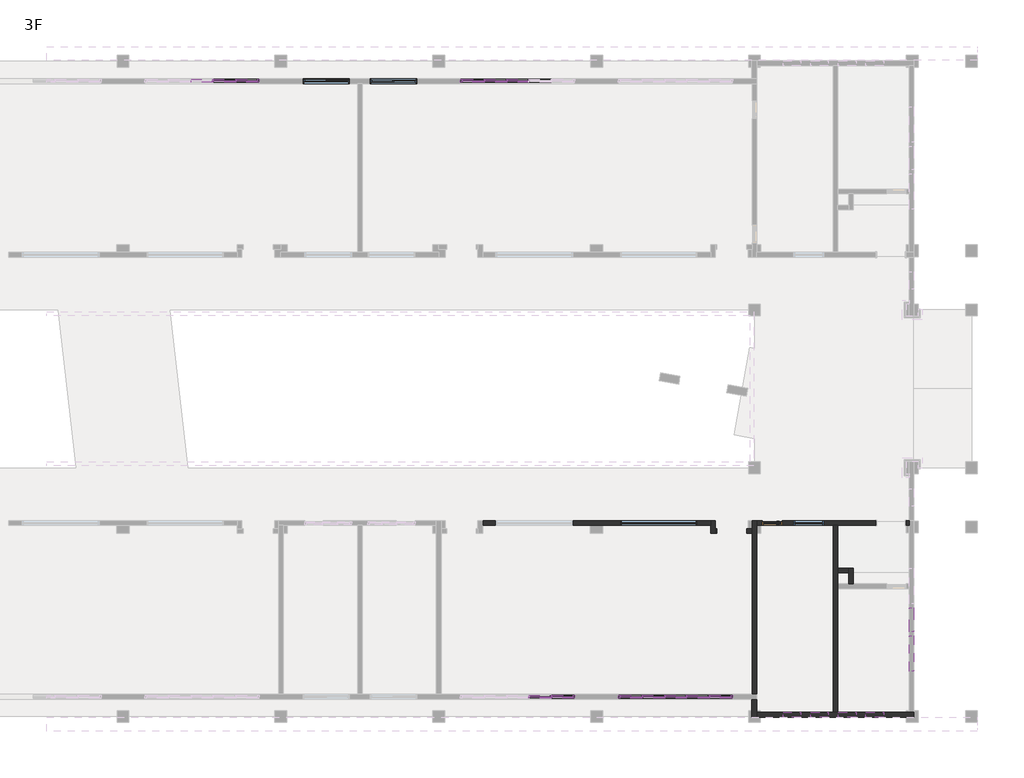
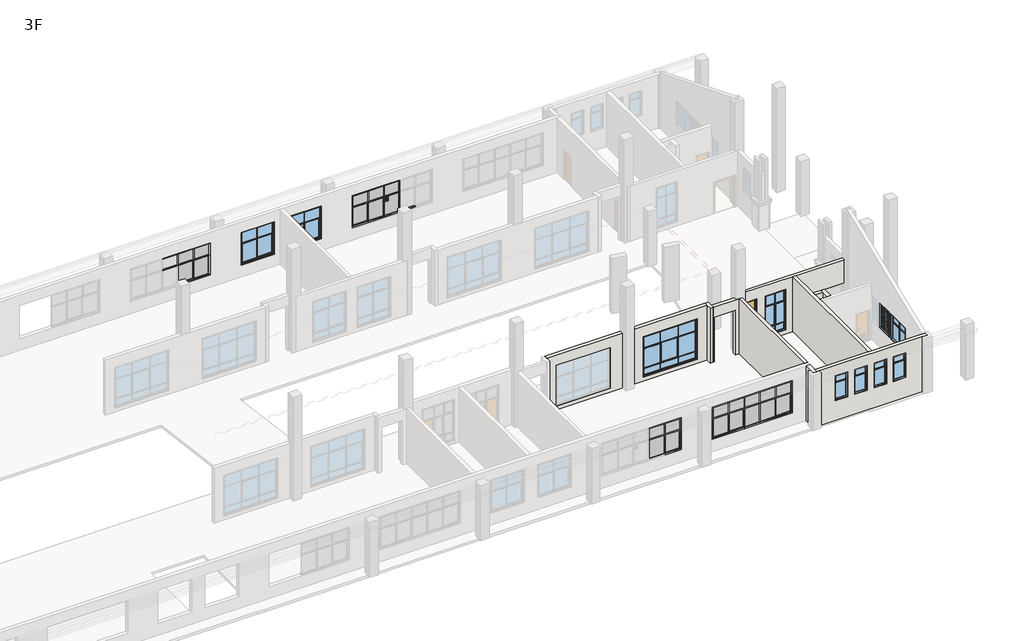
# One storey, part 6 of 9: 62 members, 19 plates, 10 walls, 10 windows, 1 door.
"""IFC4 building model written with IfcOpenShell, lengths in millimetres."""

from ifc_helpers import new_model, si_unit, frame, origin, place, context, project, spatial, polyline, outline, extrude, faceted_brep, transform, mapped, element, save
from components import m2_m2_a1934b10, member_7564be38, member_1f4d75dd, member_0b7842ad, member_163d5e45, member_ffafc35e, member_2b011958, member_9c26cac3, member_6c42befd, member_a374fdad, plate_f4dba16c, plate_1cc4df2b, plate_4fa5932a, plate_00f9c624, plate_18a10205, plate_75e73fbb, plate_7c94d5a9, window_f5fa71fb, lc2_lc2_cf207e28, lc4_lc4_4954e093, lc5_lc5_9ec79463, lc6_lc6_03a52bd1, lc7_lc7_62699857

model = new_model("IFC4")

# Units and contexts
model_context = context("Model", 3, world=origin())
ifc_project = project(units=[si_unit("LENGTHUNIT", "METRE", prefix="MILLI")], contexts=[model_context])

# Site, building, storey
site = spatial("IfcSite", under=ifc_project)
building = spatial("IfcBuilding", under=site)
storey = spatial("IfcBuildingStorey", under=building, Name="3F", Elevation=8400.0)

# Door
placement = place(None, origin())
m2_m2_shape = m2_m2_a1934b10(model_context)
element("IfcDoor", 1, ObjectType="M2 : M2", at=placement, inside=storey, context=model_context, shape_type="MappedRepresentation", body=[
    mapped(m2_m2_shape, transform((75899.9999992, 9800.7769004, 8400.0), x_axis=(1.0, 0.0, 0.0), y_axis=(0.0, 1.0, 0.0), z_axis=(0.0, 0.0, 1.0))),
])

# Members
member_shape = member_7564be38(model_context)
element("IfcMember", 2, ObjectType="矩形竖梃 : 教学楼 – 矩形竖梃 – 100x150mm", at=placement, inside=storey, context=model_context, shape_type="MappedRepresentation", body=[
    mapped(member_shape, transform((65900.0, 990.0, 11800.0), x_axis=(0.0, 0.0, 1.0), y_axis=(0.0, -1.0, 0.0), z_axis=(1.0, 0.0, 0.0))),
])
element("IfcMember", 3, ObjectType="矩形竖梃 : 教学楼 – 矩形竖梃 – 100x150mm", at=placement, inside=storey, context=model_context, shape_type="MappedRepresentation", body=[
    mapped(member_shape, transform((73899.9999993, 990.0, 11800.0), x_axis=(0.0, 0.0, 1.0), y_axis=(0.0, -1.0, 0.0), z_axis=(1.0, 0.0, 0.0))),
])
element("IfcMember", 4, ObjectType="矩形竖梃 : 教学楼 – 矩形竖梃 – 100x150mm", at=placement, inside=storey, context=model_context, shape_type="MappedRepresentation", body=[
    mapped(member_shape, transform((68099.9999993, 990.0, 9300.0), x_axis=(0.0, 0.0, -1.0), y_axis=(0.0, -1.0, 0.0), z_axis=(-1.0, 0.0, 0.0))),
])
member_2_shape = member_1f4d75dd(model_context)
element("IfcMember", 5, ObjectType="矩形竖梃 : 教学楼 – 矩形竖梃 – 50x150mm", at=placement, inside=storey, context=model_context, shape_type="MappedRepresentation", body=[
    mapped(member_2_shape, transform((70449.9999993, 990.0, 9400.0), x_axis=(1.0, 0.0, 0.0), y_axis=(0.0, -1.0, 0.0), z_axis=(0.0, 0.0, -1.0))),
])
element("IfcMember", 6, ObjectType="矩形竖梃 : 教学楼 – 矩形竖梃 – 50x150mm", at=placement, inside=storey, context=model_context, shape_type="MappedRepresentation", body=[
    mapped(member_2_shape, transform((71549.9999993, 990.0, 9400.0), x_axis=(1.0, 0.0, 0.0), y_axis=(0.0, -1.0, 0.0), z_axis=(0.0, 0.0, -1.0))),
])
member_3_shape = member_0b7842ad(model_context)
element("IfcMember", 7, ObjectType="矩形竖梃 : 教学楼 – 矩形竖梃 – 50x150mm", at=placement, inside=storey, context=model_context, shape_type="MappedRepresentation", body=[
    mapped(member_3_shape, transform((69299.9999993, 990.0, 10850.0), x_axis=(0.0, 0.0, 1.0), y_axis=(0.0, -1.0, 0.0), z_axis=(1.0, 0.0, 0.0))),
])
member_4_shape = member_163d5e45(model_context)
element("IfcMember", 8, ObjectType="矩形竖梃 : 教学楼 – 矩形竖梃 – 50x150mm", at=placement, inside=storey, context=model_context, shape_type="MappedRepresentation", body=[
    mapped(member_4_shape, transform((64700.0, 990.0, 10850.0), x_axis=(0.0, 0.0, 1.0), y_axis=(0.0, -1.0, 0.0), z_axis=(1.0, 0.0, 0.0))),
])
element("IfcMember", 9, ObjectType="矩形竖梃 : 教学楼 – 矩形竖梃 – 50x150mm", at=placement, inside=storey, context=model_context, shape_type="MappedRepresentation", body=[
    mapped(member_4_shape, transform((70449.9999993, 990.0, 10850.0), x_axis=(0.0, 0.0, 1.0), y_axis=(0.0, -1.0, 0.0), z_axis=(1.0, 0.0, 0.0))),
])
element("IfcMember", 10, ObjectType="矩形竖梃 : 教学楼 – 矩形竖梃 – 50x150mm", at=placement, inside=storey, context=model_context, shape_type="MappedRepresentation", body=[
    mapped(member_4_shape, transform((72699.9999993, 990.0, 10850.0), x_axis=(0.0, 0.0, 1.0), y_axis=(0.0, -1.0, 0.0), z_axis=(1.0, 0.0, 0.0))),
])
element("IfcMember", 11, ObjectType="矩形竖梃 : 教学楼 – 矩形竖梃 – 50x150mm", at=placement, inside=storey, context=model_context, shape_type="MappedRepresentation", body=[
    mapped(member_3_shape, transform((71549.9999993, 990.0, 10850.0), x_axis=(0.0, 0.0, 1.0), y_axis=(0.0, -1.0, 0.0), z_axis=(1.0, 0.0, 0.0))),
])
element("IfcMember", 12, ObjectType="矩形竖梃 : 教学楼 – 矩形竖梃 – 50x150mm", at=placement, inside=storey, context=model_context, shape_type="MappedRepresentation", body=[
    mapped(member_3_shape, transform((65800.0, 990.0, 10850.0), x_axis=(0.0, 0.0, 1.0), y_axis=(0.0, -1.0, 0.0), z_axis=(1.0, 0.0, 0.0))),
])
element("IfcMember", 13, ObjectType="矩形竖梃 : 教学楼 – 矩形竖梃 – 50x150mm", at=placement, inside=storey, context=model_context, shape_type="MappedRepresentation", body=[
    mapped(member_3_shape, transform((73799.9999993, 990.0, 10850.0), x_axis=(0.0, 0.0, 1.0), y_axis=(0.0, -1.0, 0.0), z_axis=(1.0, 0.0, 0.0))),
])
member_5_shape = member_ffafc35e(model_context)
element("IfcMember", 14, ObjectType="矩形竖梃 : 教学楼 – 矩形竖梃 – 100x150mm", at=placement, inside=storey, context=model_context, shape_type="MappedRepresentation", body=[
    mapped(member_5_shape, transform((69299.9999993, 990.0, 9300.0), x_axis=(0.0, 0.0, -1.0), y_axis=(0.0, -1.0, 0.0), z_axis=(-1.0, 0.0, 0.0))),
])
member_6_shape = member_2b011958(model_context)
element("IfcMember", 15, ObjectType="矩形竖梃 : 教学楼 – 矩形竖梃 – 100x150mm", at=placement, inside=storey, context=model_context, shape_type="MappedRepresentation", body=[
    mapped(member_6_shape, transform((70449.9999993, 990.0, 9300.0), x_axis=(0.0, 0.0, -1.0), y_axis=(0.0, -1.0, 0.0), z_axis=(-1.0, 0.0, 0.0))),
])
element("IfcMember", 16, ObjectType="矩形竖梃 : 教学楼 – 矩形竖梃 – 100x150mm", at=placement, inside=storey, context=model_context, shape_type="MappedRepresentation", body=[
    mapped(member_5_shape, transform((71549.9999993, 990.0, 9300.0), x_axis=(0.0, 0.0, -1.0), y_axis=(0.0, -1.0, 0.0), z_axis=(-1.0, 0.0, 0.0))),
])
element("IfcMember", 17, ObjectType="矩形竖梃 : 教学楼 – 矩形竖梃 – 100x150mm", at=placement, inside=storey, context=model_context, shape_type="MappedRepresentation", body=[
    mapped(member_shape, transform((64700.0, 990.0, 9300.0), x_axis=(0.0, 0.0, -1.0), y_axis=(0.0, -1.0, 0.0), z_axis=(-1.0, 0.0, 0.0))),
])
element("IfcMember", 18, ObjectType="矩形竖梃 : 教学楼 – 矩形竖梃 – 100x150mm", at=placement, inside=storey, context=model_context, shape_type="MappedRepresentation", body=[
    mapped(member_shape, transform((72699.9999993, 990.0, 9300.0), x_axis=(0.0, 0.0, -1.0), y_axis=(0.0, -1.0, 0.0), z_axis=(-1.0, 0.0, 0.0))),
])
element("IfcMember", 19, ObjectType="矩形竖梃 : 教学楼 – 矩形竖梃 – 100x150mm", at=placement, inside=storey, context=model_context, shape_type="MappedRepresentation", body=[
    mapped(member_shape, transform((69299.9999993, 990.0, 11800.0), x_axis=(0.0, 0.0, 1.0), y_axis=(0.0, -1.0, 0.0), z_axis=(1.0, 0.0, 0.0))),
])
element("IfcMember", 20, ObjectType="矩形竖梃 : 教学楼 – 矩形竖梃 – 100x150mm", at=placement, inside=storey, context=model_context, shape_type="MappedRepresentation", body=[
    mapped(member_5_shape, transform((64700.0, 990.0, 11800.0), x_axis=(0.0, 0.0, 1.0), y_axis=(0.0, -1.0, 0.0), z_axis=(1.0, 0.0, 0.0))),
])
element("IfcMember", 21, ObjectType="矩形竖梃 : 教学楼 – 矩形竖梃 – 100x150mm", at=placement, inside=storey, context=model_context, shape_type="MappedRepresentation", body=[
    mapped(member_5_shape, transform((70449.9999993, 990.0, 11800.0), x_axis=(0.0, 0.0, 1.0), y_axis=(0.0, -1.0, 0.0), z_axis=(1.0, 0.0, 0.0))),
])
element("IfcMember", 22, ObjectType="矩形竖梃 : 教学楼 – 矩形竖梃 – 100x150mm", at=placement, inside=storey, context=model_context, shape_type="MappedRepresentation", body=[
    mapped(member_5_shape, transform((72699.9999993, 990.0, 11800.0), x_axis=(0.0, 0.0, 1.0), y_axis=(0.0, -1.0, 0.0), z_axis=(1.0, 0.0, 0.0))),
])
element("IfcMember", 23, ObjectType="矩形竖梃 : 教学楼 – 矩形竖梃 – 100x150mm", at=placement, inside=storey, context=model_context, shape_type="MappedRepresentation", body=[
    mapped(member_6_shape, transform((71549.9999993, 990.0, 11800.0), x_axis=(0.0, 0.0, 1.0), y_axis=(0.0, -1.0, 0.0), z_axis=(1.0, 0.0, 0.0))),
])
member_7_shape = member_9c26cac3(model_context)
element("IfcMember", 24, ObjectType="矩形竖梃 : 教学楼 – 矩形竖梃 – 50x150mm", at=placement, inside=storey, context=model_context, shape_type="MappedRepresentation", body=[
    mapped(member_7_shape, transform((64700.0, 990.0, 10875.0), x_axis=(1.0, 0.0, 0.0), y_axis=(0.0, -1.0, 0.0), z_axis=(0.0, 0.0, -1.0))),
])
element("IfcMember", 25, ObjectType="矩形竖梃 : 教学楼 – 矩形竖梃 – 50x150mm", at=placement, inside=storey, context=model_context, shape_type="MappedRepresentation", body=[
    mapped(member_7_shape, transform((69299.9999993, 990.0, 10875.0), x_axis=(1.0, 0.0, 0.0), y_axis=(0.0, -1.0, 0.0), z_axis=(0.0, 0.0, -1.0))),
])
element("IfcMember", 26, ObjectType="矩形竖梃 : 教学楼 – 矩形竖梃 – 50x150mm", at=placement, inside=storey, context=model_context, shape_type="MappedRepresentation", body=[
    mapped(member_7_shape, transform((70449.9999993, 990.0, 10875.0), x_axis=(1.0, 0.0, 0.0), y_axis=(0.0, -1.0, 0.0), z_axis=(0.0, 0.0, -1.0))),
])
element("IfcMember", 27, ObjectType="矩形竖梃 : 教学楼 – 矩形竖梃 – 50x150mm", at=placement, inside=storey, context=model_context, shape_type="MappedRepresentation", body=[
    mapped(member_7_shape, transform((71549.9999993, 990.0, 10875.0), x_axis=(1.0, 0.0, 0.0), y_axis=(0.0, -1.0, 0.0), z_axis=(0.0, 0.0, -1.0))),
])
element("IfcMember", 28, ObjectType="矩形竖梃 : 教学楼 – 矩形竖梃 – 50x150mm", at=placement, inside=storey, context=model_context, shape_type="MappedRepresentation", body=[
    mapped(member_7_shape, transform((72699.9999993, 990.0, 10875.0), x_axis=(1.0, 0.0, 0.0), y_axis=(0.0, -1.0, 0.0), z_axis=(0.0, 0.0, -1.0))),
])
member_8_shape = member_6c42befd(model_context)
element("IfcMember", 29, ObjectType="矩形竖梃 : 教学楼 – 矩形竖梃 – 100x150mm", at=placement, inside=storey, context=model_context, shape_type="MappedRepresentation", body=[
    mapped(member_8_shape, transform((68099.9999993, 990.0, 11700.0), x_axis=(-1.0, 0.0, 0.0), y_axis=(0.0, -1.0, 0.0), z_axis=(0.0, 0.0, 1.0))),
])
member_9_shape = member_a374fdad(model_context)
element("IfcMember", 30, ObjectType="矩形竖梃 : 教学楼 – 矩形竖梃 – 100x150mm", at=placement, inside=storey, context=model_context, shape_type="MappedRepresentation", body=[
    mapped(member_9_shape, transform((65900.0, 990.0, 9400.0), x_axis=(1.0, 0.0, 0.0), y_axis=(0.0, -1.0, 0.0), z_axis=(0.0, 0.0, -1.0))),
])
element("IfcMember", 31, ObjectType="矩形竖梃 : 教学楼 – 矩形竖梃 – 100x150mm", at=placement, inside=storey, context=model_context, shape_type="MappedRepresentation", body=[
    mapped(member_9_shape, transform((73899.9999993, 990.0, 9400.0), x_axis=(1.0, 0.0, 0.0), y_axis=(0.0, -1.0, 0.0), z_axis=(0.0, 0.0, -1.0))),
])
element("IfcMember", 32, ObjectType="矩形竖梃 : 教学楼 – 矩形竖梃 – 100x150mm", at=placement, inside=storey, context=model_context, shape_type="MappedRepresentation", body=[
    mapped(member_8_shape, transform((65900.0, 990.0, 10850.0), x_axis=(1.0, 0.0, 0.0), y_axis=(0.0, -1.0, 0.0), z_axis=(0.0, 0.0, -1.0))),
])
element("IfcMember", 33, ObjectType="矩形竖梃 : 教学楼 – 矩形竖梃 – 100x150mm", at=placement, inside=storey, context=model_context, shape_type="MappedRepresentation", body=[
    mapped(member_8_shape, transform((73899.9999993, 990.0, 10850.0), x_axis=(1.0, 0.0, 0.0), y_axis=(0.0, -1.0, 0.0), z_axis=(0.0, 0.0, -1.0))),
])
element("IfcMember", 34, ObjectType="矩形竖梃 : 教学楼 – 矩形竖梃 – 100x150mm", at=placement, inside=storey, context=model_context, shape_type="MappedRepresentation", body=[
    mapped(member_9_shape, transform((68099.9999993, 990.0, 10850.0), x_axis=(-1.0, 0.0, 0.0), y_axis=(0.0, -1.0, 0.0), z_axis=(0.0, 0.0, 1.0))),
])
element("IfcMember", 35, ObjectType="矩形竖梃 : 教学楼 – 矩形竖梃 – 100x150mm", at=placement, inside=storey, context=model_context, shape_type="MappedRepresentation", body=[
    mapped(member_shape, transform((49899.9999995, 32210.0, 11800.0), x_axis=(0.0, 0.0, 1.0), y_axis=(0.0, -1.0, 0.0), z_axis=(1.0, 0.0, 0.0))),
])
element("IfcMember", 36, ObjectType="矩形竖梃 : 教学楼 – 矩形竖梃 – 100x150mm", at=placement, inside=storey, context=model_context, shape_type="MappedRepresentation", body=[
    mapped(member_shape, transform((60100.0000002, 32210.0, 9300.0), x_axis=(0.0, 0.0, -1.0), y_axis=(0.0, -1.0, 0.0), z_axis=(-1.0, 0.0, 0.0))),
])
element("IfcMember", 37, ObjectType="矩形竖梃 : 教学楼 – 矩形竖梃 – 50x150mm", at=placement, inside=storey, context=model_context, shape_type="MappedRepresentation", body=[
    mapped(member_2_shape, transform((62450.0000002, 32210.0, 9400.0), x_axis=(1.0, 0.0, 0.0), y_axis=(0.0, -1.0, 0.0), z_axis=(0.0, 0.0, -1.0))),
])
element("IfcMember", 38, ObjectType="矩形竖梃 : 教学楼 – 矩形竖梃 – 50x150mm", at=placement, inside=storey, context=model_context, shape_type="MappedRepresentation", body=[
    mapped(member_2_shape, transform((63550.0000002, 32210.0, 9400.0), x_axis=(1.0, 0.0, 0.0), y_axis=(0.0, -1.0, 0.0), z_axis=(0.0, 0.0, -1.0))),
])
element("IfcMember", 39, ObjectType="矩形竖梃 : 教学楼 – 矩形竖梃 – 50x150mm", at=placement, inside=storey, context=model_context, shape_type="MappedRepresentation", body=[
    mapped(member_3_shape, transform((61300.0000002, 32210.0, 10850.0), x_axis=(0.0, 0.0, 1.0), y_axis=(0.0, -1.0, 0.0), z_axis=(1.0, 0.0, 0.0))),
])
element("IfcMember", 40, ObjectType="矩形竖梃 : 教学楼 – 矩形竖梃 – 50x150mm", at=placement, inside=storey, context=model_context, shape_type="MappedRepresentation", body=[
    mapped(member_4_shape, transform((48699.9999995, 32210.0, 10850.0), x_axis=(0.0, 0.0, 1.0), y_axis=(0.0, -1.0, 0.0), z_axis=(1.0, 0.0, 0.0))),
])
element("IfcMember", 41, ObjectType="矩形竖梃 : 教学楼 – 矩形竖梃 – 50x150mm", at=placement, inside=storey, context=model_context, shape_type="MappedRepresentation", body=[
    mapped(member_4_shape, transform((62450.0000002, 32210.0, 10850.0), x_axis=(0.0, 0.0, 1.0), y_axis=(0.0, -1.0, 0.0), z_axis=(1.0, 0.0, 0.0))),
])
element("IfcMember", 42, ObjectType="矩形竖梃 : 教学楼 – 矩形竖梃 – 50x150mm", at=placement, inside=storey, context=model_context, shape_type="MappedRepresentation", body=[
    mapped(member_3_shape, transform((47549.9999995, 32210.0, 10850.0), x_axis=(0.0, 0.0, 1.0), y_axis=(0.0, -1.0, 0.0), z_axis=(1.0, 0.0, 0.0))),
])
element("IfcMember", 43, ObjectType="矩形竖梃 : 教学楼 – 矩形竖梃 – 50x150mm", at=placement, inside=storey, context=model_context, shape_type="MappedRepresentation", body=[
    mapped(member_3_shape, transform((63550.0000002, 32210.0, 10850.0), x_axis=(0.0, 0.0, 1.0), y_axis=(0.0, -1.0, 0.0), z_axis=(1.0, 0.0, 0.0))),
])
element("IfcMember", 44, ObjectType="矩形竖梃 : 教学楼 – 矩形竖梃 – 50x150mm", at=placement, inside=storey, context=model_context, shape_type="MappedRepresentation", body=[
    mapped(member_3_shape, transform((49799.9999995, 32210.0, 10850.0), x_axis=(0.0, 0.0, 1.0), y_axis=(0.0, -1.0, 0.0), z_axis=(1.0, 0.0, 0.0))),
])
element("IfcMember", 45, ObjectType="矩形竖梃 : 教学楼 – 矩形竖梃 – 100x150mm", at=placement, inside=storey, context=model_context, shape_type="MappedRepresentation", body=[
    mapped(member_5_shape, transform((61300.0000002, 32210.0, 9300.0), x_axis=(0.0, 0.0, -1.0), y_axis=(0.0, -1.0, 0.0), z_axis=(-1.0, 0.0, 0.0))),
])
element("IfcMember", 46, ObjectType="矩形竖梃 : 教学楼 – 矩形竖梃 – 100x150mm", at=placement, inside=storey, context=model_context, shape_type="MappedRepresentation", body=[
    mapped(member_6_shape, transform((62450.0000002, 32210.0, 9300.0), x_axis=(0.0, 0.0, -1.0), y_axis=(0.0, -1.0, 0.0), z_axis=(-1.0, 0.0, 0.0))),
])
element("IfcMember", 47, ObjectType="矩形竖梃 : 教学楼 – 矩形竖梃 – 100x150mm", at=placement, inside=storey, context=model_context, shape_type="MappedRepresentation", body=[
    mapped(member_5_shape, transform((47549.9999995, 32210.0, 9300.0), x_axis=(0.0, 0.0, -1.0), y_axis=(0.0, -1.0, 0.0), z_axis=(-1.0, 0.0, 0.0))),
])
element("IfcMember", 48, ObjectType="矩形竖梃 : 教学楼 – 矩形竖梃 – 100x150mm", at=placement, inside=storey, context=model_context, shape_type="MappedRepresentation", body=[
    mapped(member_5_shape, transform((63550.0000002, 32210.0, 9300.0), x_axis=(0.0, 0.0, -1.0), y_axis=(0.0, -1.0, 0.0), z_axis=(-1.0, 0.0, 0.0))),
])
element("IfcMember", 49, ObjectType="矩形竖梃 : 教学楼 – 矩形竖梃 – 100x150mm", at=placement, inside=storey, context=model_context, shape_type="MappedRepresentation", body=[
    mapped(member_shape, transform((48699.9999995, 32210.0, 9300.0), x_axis=(0.0, 0.0, -1.0), y_axis=(0.0, -1.0, 0.0), z_axis=(-1.0, 0.0, 0.0))),
])
element("IfcMember", 50, ObjectType="矩形竖梃 : 教学楼 – 矩形竖梃 – 100x150mm", at=placement, inside=storey, context=model_context, shape_type="MappedRepresentation", body=[
    mapped(member_shape, transform((61300.0000002, 32210.0, 11800.0), x_axis=(0.0, 0.0, 1.0), y_axis=(0.0, -1.0, 0.0), z_axis=(1.0, 0.0, 0.0))),
])
element("IfcMember", 51, ObjectType="矩形竖梃 : 教学楼 – 矩形竖梃 – 100x150mm", at=placement, inside=storey, context=model_context, shape_type="MappedRepresentation", body=[
    mapped(member_5_shape, transform((48699.9999995, 32210.0, 11800.0), x_axis=(0.0, 0.0, 1.0), y_axis=(0.0, -1.0, 0.0), z_axis=(1.0, 0.0, 0.0))),
])
element("IfcMember", 52, ObjectType="矩形竖梃 : 教学楼 – 矩形竖梃 – 100x150mm", at=placement, inside=storey, context=model_context, shape_type="MappedRepresentation", body=[
    mapped(member_5_shape, transform((62450.0000002, 32210.0, 11800.0), x_axis=(0.0, 0.0, 1.0), y_axis=(0.0, -1.0, 0.0), z_axis=(1.0, 0.0, 0.0))),
])
element("IfcMember", 53, ObjectType="矩形竖梃 : 教学楼 – 矩形竖梃 – 100x150mm", at=placement, inside=storey, context=model_context, shape_type="MappedRepresentation", body=[
    mapped(member_6_shape, transform((47549.9999995, 32210.0, 11800.0), x_axis=(0.0, 0.0, 1.0), y_axis=(0.0, -1.0, 0.0), z_axis=(1.0, 0.0, 0.0))),
])
element("IfcMember", 54, ObjectType="矩形竖梃 : 教学楼 – 矩形竖梃 – 100x150mm", at=placement, inside=storey, context=model_context, shape_type="MappedRepresentation", body=[
    mapped(member_6_shape, transform((63550.0000002, 32210.0, 11800.0), x_axis=(0.0, 0.0, 1.0), y_axis=(0.0, -1.0, 0.0), z_axis=(1.0, 0.0, 0.0))),
])
element("IfcMember", 55, ObjectType="矩形竖梃 : 教学楼 – 矩形竖梃 – 50x150mm", at=placement, inside=storey, context=model_context, shape_type="MappedRepresentation", body=[
    mapped(member_7_shape, transform((47549.9999995, 32210.0, 10875.0), x_axis=(1.0, 0.0, 0.0), y_axis=(0.0, -1.0, 0.0), z_axis=(0.0, 0.0, -1.0))),
])
element("IfcMember", 56, ObjectType="矩形竖梃 : 教学楼 – 矩形竖梃 – 50x150mm", at=placement, inside=storey, context=model_context, shape_type="MappedRepresentation", body=[
    mapped(member_7_shape, transform((48699.9999995, 32210.0, 10875.0), x_axis=(1.0, 0.0, 0.0), y_axis=(0.0, -1.0, 0.0), z_axis=(0.0, 0.0, -1.0))),
])
element("IfcMember", 57, ObjectType="矩形竖梃 : 教学楼 – 矩形竖梃 – 50x150mm", at=placement, inside=storey, context=model_context, shape_type="MappedRepresentation", body=[
    mapped(member_7_shape, transform((61300.0000002, 32210.0, 10875.0), x_axis=(1.0, 0.0, 0.0), y_axis=(0.0, -1.0, 0.0), z_axis=(0.0, 0.0, -1.0))),
])
element("IfcMember", 58, ObjectType="矩形竖梃 : 教学楼 – 矩形竖梃 – 50x150mm", at=placement, inside=storey, context=model_context, shape_type="MappedRepresentation", body=[
    mapped(member_7_shape, transform((62450.0000002, 32210.0, 10875.0), x_axis=(1.0, 0.0, 0.0), y_axis=(0.0, -1.0, 0.0), z_axis=(0.0, 0.0, -1.0))),
])
element("IfcMember", 59, ObjectType="矩形竖梃 : 教学楼 – 矩形竖梃 – 50x150mm", at=placement, inside=storey, context=model_context, shape_type="MappedRepresentation", body=[
    mapped(member_7_shape, transform((63550.0000002, 32210.0, 10875.0), x_axis=(1.0, 0.0, 0.0), y_axis=(0.0, -1.0, 0.0), z_axis=(0.0, 0.0, -1.0))),
])
element("IfcMember", 60, ObjectType="矩形竖梃 : 教学楼 – 矩形竖梃 – 100x150mm", at=placement, inside=storey, context=model_context, shape_type="MappedRepresentation", body=[
    mapped(member_8_shape, transform((60100.0000002, 32210.0, 11700.0), x_axis=(-1.0, 0.0, 0.0), y_axis=(0.0, -1.0, 0.0), z_axis=(0.0, 0.0, 1.0))),
])
element("IfcMember", 61, ObjectType="矩形竖梃 : 教学楼 – 矩形竖梃 – 100x150mm", at=placement, inside=storey, context=model_context, shape_type="MappedRepresentation", body=[
    mapped(member_9_shape, transform((49899.9999995, 32210.0, 9400.0), x_axis=(1.0, 0.0, 0.0), y_axis=(0.0, -1.0, 0.0), z_axis=(0.0, 0.0, -1.0))),
])
element("IfcMember", 62, ObjectType="矩形竖梃 : 教学楼 – 矩形竖梃 – 100x150mm", at=placement, inside=storey, context=model_context, shape_type="MappedRepresentation", body=[
    mapped(member_8_shape, transform((49899.9999995, 32210.0, 10850.0), x_axis=(1.0, 0.0, 0.0), y_axis=(0.0, -1.0, 0.0), z_axis=(0.0, 0.0, -1.0))),
])
element("IfcMember", 63, ObjectType="矩形竖梃 : 教学楼 – 矩形竖梃 – 100x150mm", at=placement, inside=storey, context=model_context, shape_type="MappedRepresentation", body=[
    mapped(member_9_shape, transform((60100.0000002, 32210.0, 10850.0), x_axis=(-1.0, 0.0, 0.0), y_axis=(0.0, -1.0, 0.0), z_axis=(0.0, 0.0, 1.0))),
])

# Plates
plate_shape = plate_f4dba16c(model_context)
element("IfcPlate", 64, ObjectType="系统嵌板 : 玻璃", at=placement, inside=storey, context=model_context, shape_type="MappedRepresentation", body=[
    mapped(plate_shape, transform((70999.9999993, 990.0, 9400.0), x_axis=(1.0, 0.0, 0.0), y_axis=(0.0, 1.0, 0.0), z_axis=(0.0, 0.0, 1.0))),
])
plate_2_shape = plate_1cc4df2b(model_context)
element("IfcPlate", 65, ObjectType="系统嵌板 : 玻璃", at=placement, inside=storey, context=model_context, shape_type="MappedRepresentation", body=[
    mapped(plate_2_shape, transform((65262.5, 990.0, 10875.0), x_axis=(1.0, 0.0, 0.0), y_axis=(0.0, 1.0, 0.0), z_axis=(0.0, 0.0, 1.0))),
])
element("IfcPlate", 66, ObjectType="系统嵌板 : 玻璃", at=placement, inside=storey, context=model_context, shape_type="MappedRepresentation", body=[
    mapped(plate_2_shape, transform((68737.4999993, 990.0, 10875.0), x_axis=(1.0, 0.0, 0.0), y_axis=(0.0, 1.0, 0.0), z_axis=(0.0, 0.0, 1.0))),
])
element("IfcPlate", 67, ObjectType="系统嵌板 : 玻璃", at=placement, inside=storey, context=model_context, shape_type="MappedRepresentation", body=[
    mapped(plate_2_shape, transform((73262.4999993, 990.0, 10875.0), x_axis=(1.0, 0.0, 0.0), y_axis=(0.0, 1.0, 0.0), z_axis=(0.0, 0.0, 1.0))),
])
plate_3_shape = plate_4fa5932a(model_context)
element("IfcPlate", 68, ObjectType="系统嵌板 : 玻璃", at=placement, inside=storey, context=model_context, shape_type="MappedRepresentation", body=[
    mapped(plate_3_shape, transform((64125.0, 990.0, 10875.0), x_axis=(1.0, 0.0, 0.0), y_axis=(0.0, 1.0, 0.0), z_axis=(0.0, 0.0, 1.0))),
])
element("IfcPlate", 69, ObjectType="系统嵌板 : 玻璃", at=placement, inside=storey, context=model_context, shape_type="MappedRepresentation", body=[
    mapped(plate_3_shape, transform((69874.9999993, 990.0, 10875.0), x_axis=(1.0, 0.0, 0.0), y_axis=(0.0, 1.0, 0.0), z_axis=(0.0, 0.0, 1.0))),
])
element("IfcPlate", 70, ObjectType="系统嵌板 : 玻璃", at=placement, inside=storey, context=model_context, shape_type="MappedRepresentation", body=[
    mapped(plate_3_shape, transform((72124.9999993, 990.0, 10875.0), x_axis=(1.0, 0.0, 0.0), y_axis=(0.0, 1.0, 0.0), z_axis=(0.0, 0.0, 1.0))),
])
plate_4_shape = plate_00f9c624(model_context)
element("IfcPlate", 71, ObjectType="系统嵌板 : 玻璃", at=placement, inside=storey, context=model_context, shape_type="MappedRepresentation", body=[
    mapped(plate_4_shape, transform((70999.9999993, 990.0, 10875.0), x_axis=(1.0, 0.0, 0.0), y_axis=(0.0, 1.0, 0.0), z_axis=(0.0, 0.0, 1.0))),
])
plate_5_shape = plate_18a10205(model_context)
element("IfcPlate", 72, ObjectType="教学楼 - 窗嵌板：双扇推拉窗 : 教学楼 - 窗嵌板：双扇推拉窗", at=placement, inside=storey, context=model_context, shape_type="MappedRepresentation", body=[
    mapped(plate_5_shape, transform((69312.4999993, 990.0, 9400.0), x_axis=(1.0, 0.0, 0.0), y_axis=(0.0, 1.0, 0.0), z_axis=(0.0, 0.0, 1.0))),
])
element("IfcPlate", 73, ObjectType="教学楼 - 窗嵌板：双扇推拉窗 : 教学楼 - 窗嵌板：双扇推拉窗", at=placement, inside=storey, context=model_context, shape_type="MappedRepresentation", body=[
    mapped(plate_5_shape, transform((64687.5, 990.0, 9400.0), x_axis=(1.0, 0.0, 0.0), y_axis=(0.0, 1.0, 0.0), z_axis=(0.0, 0.0, 1.0))),
])
element("IfcPlate", 74, ObjectType="教学楼 - 窗嵌板：双扇推拉窗 : 教学楼 - 窗嵌板：双扇推拉窗", at=placement, inside=storey, context=model_context, shape_type="MappedRepresentation", body=[
    mapped(plate_5_shape, transform((72687.4999993, 990.0, 9400.0), x_axis=(1.0, 0.0, 0.0), y_axis=(0.0, 1.0, 0.0), z_axis=(0.0, 0.0, 1.0))),
])
plate_6_shape = plate_75e73fbb(model_context)
element("IfcPlate", 75, ObjectType="教学楼 - 窗嵌板：双扇推拉窗 : 教学楼 - 窗嵌板：双扇推拉窗", at=placement, inside=storey, context=model_context, shape_type="MappedRepresentation", body=[
    mapped(plate_6_shape, transform((61312.5000002, 32210.0, 9400.0), x_axis=(1.0, 0.0, 0.0), y_axis=(0.0, 1.0, 0.0), z_axis=(0.0, 0.0, 1.0))),
])
element("IfcPlate", 76, ObjectType="教学楼 - 窗嵌板：双扇推拉窗 : 教学楼 - 窗嵌板：双扇推拉窗", at=placement, inside=storey, context=model_context, shape_type="MappedRepresentation", body=[
    mapped(plate_6_shape, transform((48687.4999995, 32210.0, 9400.0), x_axis=(1.0, 0.0, 0.0), y_axis=(0.0, 1.0, 0.0), z_axis=(0.0, 0.0, 1.0))),
])
element("IfcPlate", 77, ObjectType="系统嵌板 : 玻璃", at=placement, inside=storey, context=model_context, shape_type="MappedRepresentation", body=[
    mapped(plate_2_shape, transform((49262.4999995, 32210.0, 10875.0), x_axis=(1.0, 0.0, 0.0), y_axis=(0.0, 1.0, 0.0), z_axis=(0.0, 0.0, 1.0))),
])
element("IfcPlate", 78, ObjectType="系统嵌板 : 玻璃", at=placement, inside=storey, context=model_context, shape_type="MappedRepresentation", body=[
    mapped(plate_2_shape, transform((60737.5000002, 32210.0, 10875.0), x_axis=(1.0, 0.0, 0.0), y_axis=(0.0, 1.0, 0.0), z_axis=(0.0, 0.0, 1.0))),
])
element("IfcPlate", 79, ObjectType="系统嵌板 : 玻璃", at=placement, inside=storey, context=model_context, shape_type="MappedRepresentation", body=[
    mapped(plate_3_shape, transform((48124.9999995, 32210.0, 10875.0), x_axis=(1.0, 0.0, 0.0), y_axis=(0.0, 1.0, 0.0), z_axis=(0.0, 0.0, 1.0))),
])
element("IfcPlate", 80, ObjectType="系统嵌板 : 玻璃", at=placement, inside=storey, context=model_context, shape_type="MappedRepresentation", body=[
    mapped(plate_3_shape, transform((61875.0000002, 32210.0, 10875.0), x_axis=(1.0, 0.0, 0.0), y_axis=(0.0, 1.0, 0.0), z_axis=(0.0, 0.0, 1.0))),
])
element("IfcPlate", 81, ObjectType="系统嵌板 : 玻璃", at=placement, inside=storey, context=model_context, shape_type="MappedRepresentation", body=[
    mapped(plate_4_shape, transform((63000.0000002, 32210.0, 10875.0), x_axis=(1.0, 0.0, 0.0), y_axis=(0.0, 1.0, 0.0), z_axis=(0.0, 0.0, 1.0))),
])
plate_7_shape = plate_7c94d5a9(model_context)
element("IfcPlate", 82, ObjectType="教学楼 - 窗嵌板：外贴消防通道 : 教学楼 - 窗嵌板：外贴消防通道", at=placement, inside=storey, context=model_context, shape_type="MappedRepresentation", body=[
    mapped(plate_7_shape, transform((63000.0000002, 32210.0, 9400.0), x_axis=(1.0, 0.0, 0.0), y_axis=(0.0, 1.0, 0.0), z_axis=(0.0, 0.0, 1.0))),
])

# Walls
element("IfcWall", 83, ObjectType="教学楼 – 饰面砖外墙 – 200mm", at=placement, inside=storey, context=model_context, shape_type="Brep", body=[
    faceted_brep([(74867.0, 875.0, 8400.0), (74867.0, 300.0, 8400.0), (74867.0, -32.6954642, 8400.0), (74867.0, -32.6954642, 12600.0), (74867.0, 300.0, 12600.0), (74867.0, 875.0, 12600.0), (75117.0, 875.0, 8400.0), (75117.0, 875.0, 12600.0), (75117.0, 300.0, 12600.0), (75117.0, 217.3045358, 12600.0), (75117.0, -32.6954642, 12600.0), (75117.0, -32.6954642, 8400.0), (75117.0, 217.3045358, 8400.0), (75117.0, 300.0, 8400.0)], [[[0, 1, 2, 3, 4, 5]], [[6, 7, 8, 9, 10, 11, 12, 13]], [[2, 1, 0, 6, 13, 12, 11]], [[5, 4, 3, 10, 9, 8, 7]], [[0, 5, 7, 6]], [[3, 2, 11, 10]]]),
])
element("IfcWall", 84, ObjectType="教学楼 – 饰面砖外墙 – 200mm", at=placement, inside=storey, context=model_context, shape_type="Brep", body=[
    faceted_brep([(75117.0, -32.6954642, 8400.0), (75300.0, -32.6954642, 8400.0), (82700.0, -32.6954642, 8400.0), (83082.9999995, -32.6954642, 8400.0), (83082.9999995, -32.6954642, 12600.0), (82700.0, -32.6954642, 12600.0), (75300.0, -32.6954642, 12600.0), (75117.0, -32.6954642, 12600.0), (80649.9999998, -32.6954642, 9900.0), (80649.9999998, -32.6954642, 11800.0), (81549.9999998, -32.6954642, 11800.0), (81549.9999998, -32.6954642, 9900.0), (79250.0000022, -32.6954642, 9900.0), (79250.0000022, -32.6954642, 11800.0), (80150.0000022, -32.6954642, 11800.0), (80150.0000022, -32.6954642, 9900.0), (78750.0000022, -32.6954642, 9900.0), (77850.0000022, -32.6954642, 9900.0), (77850.0000022, -32.6954642, 11800.0), (78750.0000022, -32.6954642, 11800.0), (77350.0000046, -32.6954642, 9900.0), (76450.0000046, -32.6954642, 9900.0), (76450.0000046, -32.6954642, 11800.0), (77350.0000046, -32.6954642, 11800.0), (75117.0, 217.3045358, 8400.0), (75117.0, 217.3045358, 12600.0), (75300.0, 217.3045358, 12600.0), (78983.0000003, 217.3045358, 12600.0), (79217.0000003, 217.3045358, 12600.0), (82700.0, 217.3045358, 12600.0), (82832.9999995, 217.3045358, 12600.0), (83082.9999995, 217.3045358, 12600.0), (83082.9999995, 217.3045358, 8400.0), (82832.9999995, 217.3045358, 8400.0), (82700.0, 217.3045358, 8400.0), (79217.0000003, 217.3045358, 8400.0), (78983.0000003, 217.3045358, 8400.0), (75300.0, 217.3045358, 8400.0), (80649.9999998, 217.3045358, 9900.0), (81549.9999998, 217.3045358, 9900.0), (81549.9999998, 217.3045358, 11800.0), (80649.9999998, 217.3045358, 11800.0), (79250.0000022, 217.3045358, 9900.0), (80150.0000022, 217.3045358, 9900.0), (80150.0000022, 217.3045358, 11800.0), (79250.0000022, 217.3045358, 11800.0), (78750.0000022, 217.3045358, 9900.0), (78750.0000022, 217.3045358, 11800.0), (77850.0000022, 217.3045358, 11800.0), (77850.0000022, 217.3045358, 9900.0), (77350.0000046, 217.3045358, 9900.0), (77350.0000046, 217.3045358, 11800.0), (76450.0000046, 217.3045358, 11800.0), (76450.0000046, 217.3045358, 9900.0)], [[[0, 1, 2, 3, 4, 5, 6, 7], [8, 9, 10, 11], [12, 13, 14, 15], [16, 17, 18, 19], [20, 21, 22, 23]], [[24, 25, 26, 27, 28, 29, 30, 31, 32, 33, 34, 35, 36, 37], [38, 39, 40, 41], [42, 43, 44, 45], [46, 47, 48, 49], [50, 51, 52, 53]], [[3, 2, 1, 0, 24, 37, 36, 35, 34, 33, 32]], [[7, 6, 5, 4, 31, 30, 29, 28, 27, 26, 25]], [[0, 7, 25, 24]], [[4, 3, 32, 31]], [[9, 8, 38, 41]], [[10, 9, 41, 40]], [[11, 10, 40, 39]], [[8, 11, 39, 38]], [[13, 12, 42, 45]], [[14, 13, 45, 44]], [[15, 14, 44, 43]], [[12, 15, 43, 42]], [[47, 46, 16, 19]], [[48, 47, 19, 18]], [[49, 48, 18, 17]], [[46, 49, 17, 16]], [[51, 50, 20, 23]], [[52, 51, 23, 22]], [[53, 52, 22, 21]], [[50, 53, 21, 20]]]),
])
element("IfcWall", 85, ObjectType="教学楼 – 涂料内墙 – 200mm", at=placement, inside=storey, context=model_context, shape_type="Brep", body=[
    faceted_brep([(75117.0, 1125.0, 8400.0), (75117.0, 9283.0, 8400.0), (75117.0, 9683.7769004, 8400.0), (75117.0, 9917.7769004, 8400.0), (75117.0, 9917.7769004, 12600.0), (75117.0, 9683.7769004, 12600.0), (75117.0, 9283.0, 12600.0), (75117.0, 1125.0, 12600.0), (74883.0, 1125.0, 8400.0), (74883.0, 1125.0, 12600.0), (74883.0, 9283.0, 12600.0), (74883.0, 9283.2768989, 12600.0), (74883.0, 9517.2768989, 12600.0), (74883.0, 9917.0, 12600.0), (74883.0, 9917.7769004, 12600.0), (74883.0, 9917.7769004, 8400.0), (74883.0, 9917.0, 8400.0), (74883.0, 9517.2768989, 8400.0), (74883.0, 9283.2768989, 8400.0), (74883.0, 9283.0, 8400.0)], [[[0, 1, 2, 3, 4, 5, 6, 7]], [[8, 9, 10, 11, 12, 13, 14, 15, 16, 17, 18, 19]], [[3, 2, 1, 0, 8, 19, 18, 17, 16, 15]], [[7, 6, 5, 4, 14, 13, 12, 11, 10, 9]], [[4, 3, 15, 14]], [[0, 7, 9, 8]]]),
])
element("IfcWall", 86, ObjectType="教学楼 – 涂料内墙 – 200mm", at=placement, inside=storey, context=model_context, shape_type="Brep", body=[
    faceted_brep([(79217.0000003, 217.3045358, 8400.0), (79217.0000003, 6483.7769004, 8400.0), (79217.0000003, 6717.7769004, 8400.0), (79217.0000003, 7283.7769004, 8400.0), (79217.0000003, 7517.7769004, 8400.0), (79217.0000003, 9683.7769004, 8400.0), (79217.0000003, 9683.7769004, 12600.0), (79217.0000003, 7517.7769004, 12600.0), (79217.0000003, 7283.7769004, 12600.0), (79217.0000003, 6717.7769004, 12600.0), (79217.0000003, 6483.7769004, 12600.0), (79217.0000003, 217.3045358, 12600.0), (78983.0000003, 217.3045358, 8400.0), (78983.0000003, 217.3045358, 12600.0), (78983.0000003, 9683.7769004, 12600.0), (78983.0000003, 9683.7769004, 8400.0)], [[[0, 1, 2, 3, 4, 5, 6, 7, 8, 9, 10, 11]], [[12, 13, 14, 15]], [[5, 4, 3, 2, 1, 0, 12, 15]], [[11, 10, 9, 8, 7, 6, 14, 13]], [[6, 5, 15, 14]], [[0, 11, 13, 12]]]),
])
element("IfcWall", 87, ObjectType="教学楼 – 涂料内墙 – 200mm", at=placement, inside=storey, context=model_context, shape_type="Brep", body=[
    faceted_brep([(82832.9999995, 9683.7769004, 12600.0), (82700.0, 9683.7769004, 12600.0), (79217.0000003, 9683.7769004, 12600.0), (78983.0000003, 9683.7769004, 12600.0), (75317.0, 9683.7769004, 12600.0), (75117.0, 9683.7769004, 12600.0), (75117.0, 9683.7769004, 8400.0), (75317.0, 9683.7769004, 8400.0), (75399.9999992, 9683.7769004, 8400.0), (75399.9999992, 9683.7769004, 11800.0), (76399.9999992, 9683.7769004, 11800.0), (76399.9999992, 9683.7769004, 8400.0), (78983.0000003, 9683.7769004, 8400.0), (79217.0000003, 9683.7769004, 8400.0), (81150.0, 9683.7769004, 8400.0), (81150.0, 9683.7769004, 10800.0), (82700.0, 9683.7769004, 10800.0), (82700.0, 9683.7769004, 8400.0), (82832.9999995, 9683.7769004, 8400.0), (78499.9999937, 9683.7769004, 8700.0), (76999.9999937, 9683.7769004, 8700.0), (76999.9999937, 9683.7769004, 11800.0), (78499.9999937, 9683.7769004, 11800.0), (75117.0, 9917.7769004, 12600.0), (82832.9999995, 9917.7769004, 12600.0), (82832.9999995, 9917.7769004, 8400.0), (82700.0, 9917.7769004, 8400.0), (82700.0, 9917.7769004, 10800.0), (81150.0, 9917.7769004, 10800.0), (81150.0, 9917.7769004, 8400.0), (76399.9999992, 9917.7769004, 8400.0), (76399.9999992, 9917.7769004, 11800.0), (75399.9999992, 9917.7769004, 11800.0), (75399.9999992, 9917.7769004, 8400.0), (75117.0, 9917.7769004, 8400.0), (78499.9999937, 9917.7769004, 8700.0), (78499.9999937, 9917.7769004, 11800.0), (76999.9999937, 9917.7769004, 11800.0), (76999.9999937, 9917.7769004, 8700.0), (82832.9999995, 9900.0, 12600.0)], [[[0, 1, 2, 3, 4, 5, 6, 7, 8, 9, 10, 11, 12, 13, 14, 15, 16, 17, 18], [19, 20, 21, 22]], [[23, 24, 25, 26, 27, 28, 29, 30, 31, 32, 33, 34], [35, 36, 37, 38]], [[6, 34, 33, 8, 7]], [[29, 14, 13, 12, 11, 30]], [[18, 17, 26, 25]], [[5, 4, 3, 2, 1, 0, 39, 24, 23]], [[6, 5, 23, 34]], [[28, 15, 14, 29]], [[15, 28, 27, 16]], [[16, 27, 26, 17]], [[36, 35, 19, 22]], [[37, 36, 22, 21]], [[38, 37, 21, 20]], [[35, 38, 20, 19]], [[10, 31, 30, 11]], [[31, 10, 9, 32]], [[32, 9, 8, 33]], [[0, 18, 25, 24, 39]]]),
])
element("IfcWall", 88, ObjectType="教学楼 – 涂料内墙 – 200mm", at=placement, inside=storey, context=model_context, shape_type="Brep", body=[
    faceted_brep([(74883.0, 9283.2768989, 12600.0), (74683.0, 9283.2768989, 12600.0), (73017.0, 9283.2768989, 12600.0), (73017.0, 9283.2768989, 8400.0), (73099.9999991, 9283.2768989, 8400.0), (73099.9999991, 9283.2768989, 11800.0), (74599.9999991, 9283.2768989, 11800.0), (74599.9999991, 9283.2768989, 8400.0), (74683.0, 9283.2768989, 8400.0), (74883.0, 9283.2768989, 8400.0), (73017.0, 9517.2768989, 12600.0), (74683.0, 9517.2768989, 12600.0), (74883.0, 9517.2768989, 12600.0), (74883.0, 9517.2768989, 8400.0), (74683.0, 9517.2768989, 8400.0), (74599.9999991, 9517.2768989, 8400.0), (74599.9999991, 9517.2768989, 11800.0), (73099.9999991, 9517.2768989, 11800.0), (73099.9999991, 9517.2768989, 8400.0), (73017.0, 9517.2768989, 8400.0)], [[[0, 1, 2, 3, 4, 5, 6, 7, 8, 9]], [[10, 11, 12, 13, 14, 15, 16, 17, 18, 19]], [[3, 19, 18, 4]], [[13, 9, 8, 7, 15, 14]], [[2, 1, 0, 12, 11, 10]], [[3, 2, 10, 19]], [[0, 9, 13, 12]], [[6, 16, 15, 7]], [[16, 6, 5, 17]], [[17, 5, 4, 18]]]),
])
element("IfcWall", 89, ObjectType="教学楼 – 涂料内墙 – 200mm", at=placement, inside=storey, context=model_context, shape_type="Brep", body=[
    faceted_brep([(73017.0, 9283.2768989, 8400.0), (73017.0, 9517.2768989, 8400.0), (73017.0, 9917.3045361, 8400.0), (73017.0, 9917.3045361, 12600.0), (73017.0, 9517.2768989, 12600.0), (73017.0, 9283.2768989, 12600.0), (72783.0, 9283.2768989, 8400.0), (72783.0, 9283.2768989, 12600.0), (72783.0, 9683.3045361, 12600.0), (72783.0, 9917.3045361, 12600.0), (72783.0, 9917.3045361, 8400.0), (72783.0, 9683.3045361, 8400.0)], [[[0, 1, 2, 3, 4, 5]], [[6, 7, 8, 9, 10, 11]], [[2, 1, 0, 6, 11, 10]], [[5, 4, 3, 9, 8, 7]], [[0, 5, 7, 6]], [[3, 2, 10, 9]]]),
])
element("IfcWall", 90, ObjectType="教学楼 – 涂料内墙 – 200mm", at=placement, inside=storey, context=model_context, shape_type="Brep", body=[
    faceted_brep([(80016.9999995, 6717.7769004, 8400.0), (80016.9999995, 7517.7769004, 8400.0), (80016.9999995, 7517.7769004, 12600.0), (80016.9999995, 6717.7769004, 12600.0), (79782.9999995, 6717.7769004, 8400.0), (79782.9999995, 6717.7769004, 12600.0), (79782.9999995, 7283.7769004, 12600.0), (79782.9999995, 7517.7769004, 12600.0), (79782.9999995, 7517.7769004, 8400.0), (79782.9999995, 7283.7769004, 8400.0)], [[[0, 1, 2, 3]], [[4, 5, 6, 7, 8, 9]], [[1, 0, 4, 9, 8]], [[3, 2, 7, 6, 5]], [[2, 1, 8, 7]], [[0, 3, 5, 4]]]),
])
element("IfcWall", 91, ObjectType="教学楼 – 涂料内墙 – 200mm", at=placement, inside=storey, context=model_context, shape_type="SweptSolid", body=[
    extrude(outline(polyline([(79217.0000003, 7517.7769004), (79782.9999995, 7517.7769004), (79782.9999995, 7283.7769004), (79217.0000003, 7283.7769004), (79217.0000003, 7517.7769004)])), frame((0.0, 0.0, 8400.0), z_axis=(0.0, 0.0, 1.0), x_axis=(1.0, 0.0, 0.0)), (0.0, 0.0, 1.0), 4200.0),
])
element("IfcWall", 92, ObjectType="教学楼 – 涂料内墙 – 200mm", at=placement, inside=storey, context=model_context, shape_type="Brep", body=[
    faceted_brep([(61216.999998, 9683.3045361, 8400.0), (66683.0, 9683.3045361, 8400.0), (67317.0, 9683.3045361, 8400.0), (72783.0, 9683.3045361, 8400.0), (72783.0, 9683.3045361, 12600.0), (67317.0, 9683.3045361, 12600.0), (66683.0, 9683.3045361, 12600.0), (61216.999998, 9683.3045361, 12600.0), (61899.9999993, 9683.3045361, 8700.0), (61899.9999993, 9683.3045361, 11800.0), (65799.9999993, 9683.3045361, 11800.0), (65799.9999993, 9683.3045361, 8700.0), (68199.9999993, 9683.3045361, 8700.0), (68199.9999993, 9683.3045361, 11800.0), (72099.9999993, 9683.3045361, 11800.0), (72099.9999993, 9683.3045361, 8700.0), (61216.999998, 9917.3045361, 8400.0), (61216.999998, 9917.3045361, 12600.0), (72783.0, 9917.3045361, 12600.0), (72783.0, 9917.3045361, 8400.0), (61899.9999993, 9917.3045361, 8700.0), (65799.9999993, 9917.3045361, 8700.0), (65799.9999993, 9917.3045361, 11800.0), (61899.9999993, 9917.3045361, 11800.0), (68199.9999993, 9917.3045361, 8700.0), (72099.9999993, 9917.3045361, 8700.0), (72099.9999993, 9917.3045361, 11800.0), (68199.9999993, 9917.3045361, 11800.0)], [[[0, 1, 2, 3, 4, 5, 6, 7], [8, 9, 10, 11], [12, 13, 14, 15]], [[16, 17, 18, 19], [20, 21, 22, 23], [24, 25, 26, 27]], [[3, 2, 1, 0, 16, 19]], [[7, 6, 5, 4, 18, 17]], [[4, 3, 19, 18]], [[8, 11, 21, 20]], [[11, 10, 22, 21]], [[10, 9, 23, 22]], [[9, 8, 20, 23]], [[12, 15, 25, 24]], [[15, 14, 26, 25]], [[14, 13, 27, 26]], [[13, 12, 24, 27]], [[0, 7, 17, 16]]]),
])

# Windows
window_shape = window_f5fa71fb(model_context)
element("IfcWindow", 93, ObjectType="LC9_带格栅 : LC9_带格栅", at=placement, inside=storey, context=model_context, shape_type="MappedRepresentation", body=[
    mapped(window_shape, transform((82949.3011334, 4900.1677972, 8400.0), x_axis=(0.0, -1.0, 0.0), y_axis=(1.0, 0.0, 0.0), z_axis=(0.0, 0.0, 1.0))),
])
lc2_lc2_shape = lc2_lc2_cf207e28(model_context)
element("IfcWindow", 94, ObjectType="LC2 : LC2", at=placement, inside=storey, context=model_context, shape_type="MappedRepresentation", body=[
    mapped(lc2_lc2_shape, transform((76900.0000046, 92.3045358, 8400.0), x_axis=(1.0, 0.0, 0.0), y_axis=(0.0, 1.0, 0.0), z_axis=(0.0, 0.0, 1.0))),
])
element("IfcWindow", 95, ObjectType="LC2 : LC2", at=placement, inside=storey, context=model_context, shape_type="MappedRepresentation", body=[
    mapped(lc2_lc2_shape, transform((78300.0000022, 92.3045358, 8400.0), x_axis=(1.0, 0.0, 0.0), y_axis=(0.0, 1.0, 0.0), z_axis=(0.0, 0.0, 1.0))),
])
element("IfcWindow", 96, ObjectType="LC2 : LC2", at=placement, inside=storey, context=model_context, shape_type="MappedRepresentation", body=[
    mapped(lc2_lc2_shape, transform((79700.0000022, 92.3045358, 8400.0), x_axis=(-1.0, 0.0, 0.0), y_axis=(0.0, -1.0, 0.0), z_axis=(0.0, 0.0, 1.0))),
])
element("IfcWindow", 97, ObjectType="LC2 : LC2", at=placement, inside=storey, context=model_context, shape_type="MappedRepresentation", body=[
    mapped(lc2_lc2_shape, transform((81099.9999998, 92.3045358, 8400.0), x_axis=(-1.0, 0.0, 0.0), y_axis=(0.0, -1.0, 0.0), z_axis=(0.0, 0.0, 1.0))),
])
lc4_lc4_shape = lc4_lc4_4954e093(model_context)
element("IfcWindow", 98, ObjectType="LC4 : LC4", at=placement, inside=storey, context=model_context, shape_type="MappedRepresentation", body=[
    mapped(lc4_lc4_shape, transform((53300.0000067, 32208.6988661, 8400.0), x_axis=(-1.0, 0.0, 0.0), y_axis=(0.0, -1.0, 0.0), z_axis=(0.0, 0.0, 1.0))),
])
element("IfcWindow", 99, ObjectType="LC4 : LC4", at=placement, inside=storey, context=model_context, shape_type="MappedRepresentation", body=[
    mapped(lc4_lc4_shape, transform((56700.0, 32191.3011339, 8400.0), x_axis=(1.0, 0.0, 0.0), y_axis=(0.0, 1.0, 0.0), z_axis=(0.0, 0.0, 1.0))),
])
lc5_lc5_shape = lc5_lc5_9ec79463(model_context)
element("IfcWindow", 100, ObjectType="LC5 : LC5", at=placement, inside=storey, context=model_context, shape_type="MappedRepresentation", body=[
    mapped(lc5_lc5_shape, transform((70149.9999993, 9800.3045361, 8400.0), x_axis=(1.0, 0.0, 0.0), y_axis=(0.0, 1.0, 0.0), z_axis=(0.0, 0.0, 1.0))),
])
lc6_lc6_shape = lc6_lc6_03a52bd1(model_context)
element("IfcWindow", 101, ObjectType="LC6 : LC6", at=placement, inside=storey, context=model_context, shape_type="MappedRepresentation", body=[
    mapped(lc6_lc6_shape, transform((77749.9999937, 9800.7769004, 8400.0), x_axis=(-1.0, 0.0, 0.0), y_axis=(0.0, -1.0, 0.0), z_axis=(0.0, 0.0, 1.0))),
])
lc7_lc7_shape = lc7_lc7_62699857(model_context)
element("IfcWindow", 102, ObjectType="LC7 : LC7", at=placement, inside=storey, context=model_context, shape_type="MappedRepresentation", body=[
    mapped(lc7_lc7_shape, transform((82966.6988656, 3200.1678289, 8400.0), x_axis=(0.0, 1.0, 0.0), y_axis=(-1.0, 0.0, 0.0), z_axis=(0.0, 0.0, 1.0))),
])

save(model, "model.ifc")
